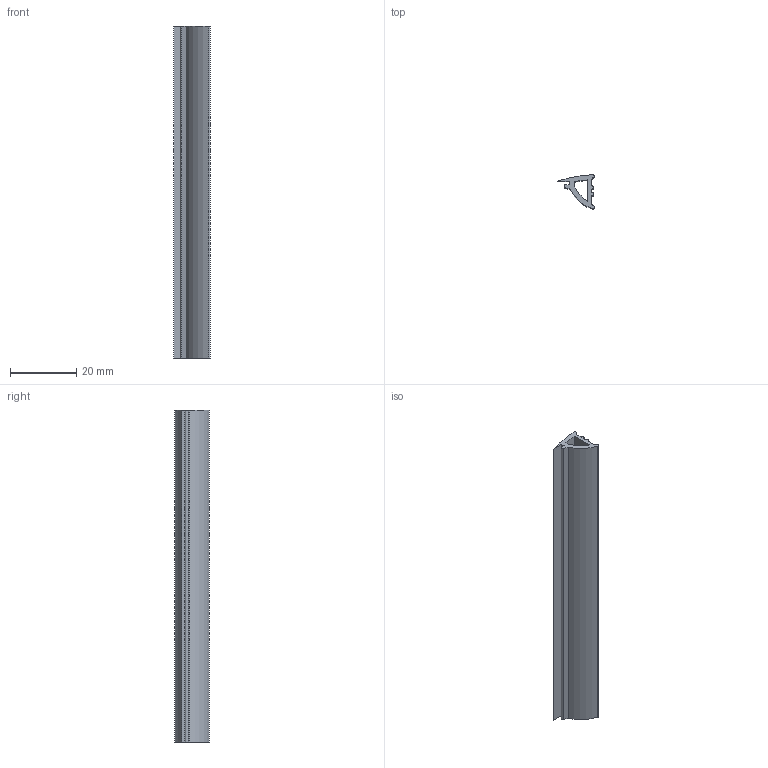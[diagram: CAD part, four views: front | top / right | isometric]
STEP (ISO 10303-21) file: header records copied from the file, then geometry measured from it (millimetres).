
FILE_DESCRIPTION (( 'STEP AP214' ), '1' );
FILE_NAME ('F50805.step', '2024-12-03T16:17:49', ( '' ), ( '' ), 'SwSTEP 2.0', 'SolidWorks 2023', '' );
FILE_SCHEMA (( 'AUTOMOTIVE_DESIGN' ));
Length unit declared in the file: millimetre
Products named in the file (1): F50805
Bounding box: 11.1 x 10.3 x 100 mm (x, y, z)
Volume: 3909.9 mm3; surface area: 6022.3 mm2
Topology: 1 solids, 1 shells, 22 faces, 60 edges, 40 vertices
Faces by surface type: plane 11, cylinder 11
Entity records: 733 total; most frequent: DIRECTION 128, CARTESIAN_POINT 123, ORIENTED_EDGE 120, EDGE_CURVE 60, AXIS2_PLACEMENT_3D 45, VERTEX_POINT 40, LINE 38, VECTOR 38
